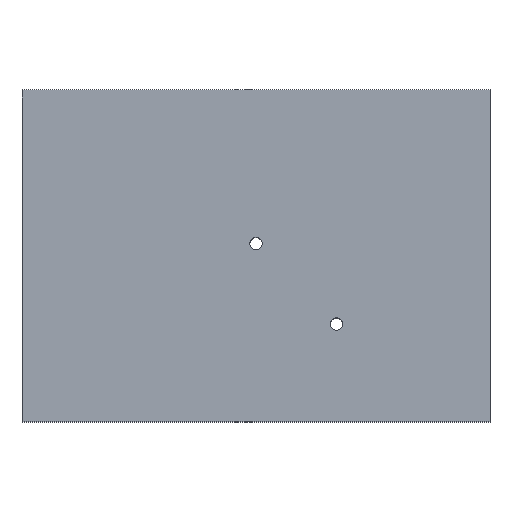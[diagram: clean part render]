
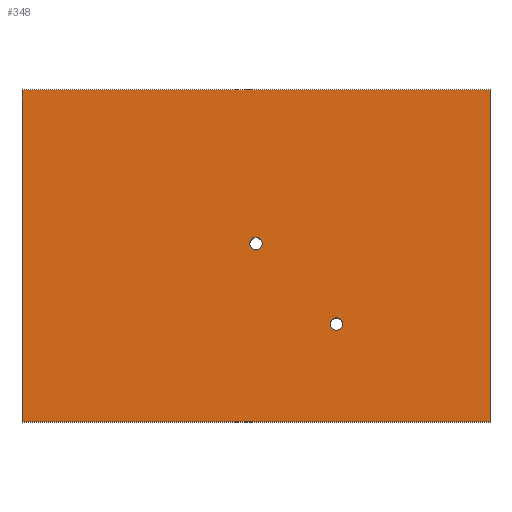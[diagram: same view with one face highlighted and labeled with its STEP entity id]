
A CAD part, top view. The second image highlights one B-rep face of the part: STEP entity #348.
In plain terms, the highlighted planar face has unit normal (0, 0, 1).
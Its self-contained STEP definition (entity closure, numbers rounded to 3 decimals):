
#35 = CARTESIAN_POINT ( 'NONE',  ( 76.2, 0., 17.5 ) ) ;
#42 = EDGE_CURVE ( 'NONE', #1291, #602, #1156, .T. ) ;
#44 = ORIENTED_EDGE ( 'NONE', *, *, #42, .F. ) ;
#88 = DIRECTION ( 'NONE',  ( 1., 0., 0. ) ) ;
#90 = DIRECTION ( 'NONE',  ( -1., 0., 0. ) ) ;
#95 = ORIENTED_EDGE ( 'NONE', *, *, #1135, .T. ) ;
#131 = AXIS2_PLACEMENT_3D ( 'NONE', #285, #701, #90 ) ;
#148 = VERTEX_POINT ( 'NONE', #541 ) ;
#167 = EDGE_CURVE ( 'NONE', #461, #424, #340, .T. ) ;
#192 = LINE ( 'NONE', #1309, #216 ) ;
#204 = DIRECTION ( 'NONE',  ( 0., 0., 1. ) ) ;
#216 = VECTOR ( 'NONE', #990, 1000. ) ;
#219 = CARTESIAN_POINT ( 'NONE',  ( 51.2, 15.9, 17.5 ) ) ;
#268 = VERTEX_POINT ( 'NONE', #456 ) ;
#272 = CARTESIAN_POINT ( 'NONE',  ( 0., 54., 17.5 ) ) ;
#285 = CARTESIAN_POINT ( 'NONE',  ( 0., 0., 17.5 ) ) ;
#307 = EDGE_LOOP ( 'NONE', ( #440, #865 ) ) ;
#328 = VECTOR ( 'NONE', #687, 1000. ) ;
#329 = AXIS2_PLACEMENT_3D ( 'NONE', #1145, #1028, #88 ) ;
#340 = LINE ( 'NONE', #35, #1075 ) ;
#348 = ADVANCED_FACE ( 'NONE', ( #1122, #394, #1227 ), #803, .F. ) ;
#352 = CIRCLE ( 'NONE', #1116, 1. ) ;
#359 = LINE ( 'NONE', #272, #328 ) ;
#368 = CARTESIAN_POINT ( 'NONE',  ( 39.1, 29., 17.5 ) ) ;
#378 = ORIENTED_EDGE ( 'NONE', *, *, #167, .T. ) ;
#394 = FACE_BOUND ( 'NONE', #1267, .T. ) ;
#405 = DIRECTION ( 'NONE',  ( 0., -1., 0. ) ) ;
#424 = VERTEX_POINT ( 'NONE', #777 ) ;
#430 = VERTEX_POINT ( 'NONE', #511 ) ;
#440 = ORIENTED_EDGE ( 'NONE', *, *, #1211, .F. ) ;
#456 = CARTESIAN_POINT ( 'NONE',  ( 0., 0., 17.5 ) ) ;
#461 = VERTEX_POINT ( 'NONE', #621 ) ;
#486 = AXIS2_PLACEMENT_3D ( 'NONE', #793, #560, #1099 ) ;
#511 = CARTESIAN_POINT ( 'NONE',  ( 50.2, 15.9, 17.5 ) ) ;
#541 = CARTESIAN_POINT ( 'NONE',  ( 52.2, 15.9, 17.5 ) ) ;
#556 = DIRECTION ( 'NONE',  ( 0., 1., 0. ) ) ;
#560 = DIRECTION ( 'NONE',  ( 0., 0., 1. ) ) ;
#568 = VECTOR ( 'NONE', #405, 1000. ) ;
#602 = VERTEX_POINT ( 'NONE', #965 ) ;
#608 = AXIS2_PLACEMENT_3D ( 'NONE', #646, #749, #971 ) ;
#614 = DIRECTION ( 'NONE',  ( 1., 0., 0. ) ) ;
#621 = CARTESIAN_POINT ( 'NONE',  ( 76.2, 0., 17.5 ) ) ;
#622 = ORIENTED_EDGE ( 'NONE', *, *, #1173, .T. ) ;
#646 = CARTESIAN_POINT ( 'NONE',  ( 38.1, 29., 17.5 ) ) ;
#687 = DIRECTION ( 'NONE',  ( -1., 0., 0. ) ) ;
#701 = DIRECTION ( 'NONE',  ( 0., 0., -1. ) ) ;
#734 = LINE ( 'NONE', #917, #568 ) ;
#749 = DIRECTION ( 'NONE',  ( 0., 0., 1. ) ) ;
#759 = EDGE_CURVE ( 'NONE', #602, #1291, #839, .T. ) ;
#769 = ORIENTED_EDGE ( 'NONE', *, *, #987, .T. ) ;
#777 = CARTESIAN_POINT ( 'NONE',  ( 76.2, 54., 17.5 ) ) ;
#793 = CARTESIAN_POINT ( 'NONE',  ( 51.2, 15.9, 17.5 ) ) ;
#803 = PLANE ( 'NONE',  #131 ) ;
#839 = CIRCLE ( 'NONE', #608, 1. ) ;
#857 = ORIENTED_EDGE ( 'NONE', *, *, #759, .F. ) ;
#865 = ORIENTED_EDGE ( 'NONE', *, *, #1125, .F. ) ;
#917 = CARTESIAN_POINT ( 'NONE',  ( 0., 0., 17.5 ) ) ;
#965 = CARTESIAN_POINT ( 'NONE',  ( 37.1, 29., 17.5 ) ) ;
#967 = CARTESIAN_POINT ( 'NONE',  ( 0., 54., 17.5 ) ) ;
#971 = DIRECTION ( 'NONE',  ( 1., 0., 0. ) ) ;
#987 = EDGE_CURVE ( 'NONE', #268, #461, #192, .T. ) ;
#990 = DIRECTION ( 'NONE',  ( 1., 0., 0. ) ) ;
#1028 = DIRECTION ( 'NONE',  ( 0., 0., 1. ) ) ;
#1044 = EDGE_LOOP ( 'NONE', ( #95, #769, #378, #622 ) ) ;
#1062 = CIRCLE ( 'NONE', #486, 1. ) ;
#1075 = VECTOR ( 'NONE', #556, 1000. ) ;
#1099 = DIRECTION ( 'NONE',  ( 1., 0., 0. ) ) ;
#1116 = AXIS2_PLACEMENT_3D ( 'NONE', #219, #204, #614 ) ;
#1122 = FACE_OUTER_BOUND ( 'NONE', #1044, .T. ) ;
#1125 = EDGE_CURVE ( 'NONE', #148, #430, #352, .T. ) ;
#1135 = EDGE_CURVE ( 'NONE', #1259, #268, #734, .T. ) ;
#1145 = CARTESIAN_POINT ( 'NONE',  ( 38.1, 29., 17.5 ) ) ;
#1156 = CIRCLE ( 'NONE', #329, 1. ) ;
#1173 = EDGE_CURVE ( 'NONE', #424, #1259, #359, .T. ) ;
#1211 = EDGE_CURVE ( 'NONE', #430, #148, #1062, .T. ) ;
#1227 = FACE_BOUND ( 'NONE', #307, .T. ) ;
#1259 = VERTEX_POINT ( 'NONE', #967 ) ;
#1267 = EDGE_LOOP ( 'NONE', ( #857, #44 ) ) ;
#1291 = VERTEX_POINT ( 'NONE', #368 ) ;
#1309 = CARTESIAN_POINT ( 'NONE',  ( 0., 0., 17.5 ) ) ;
